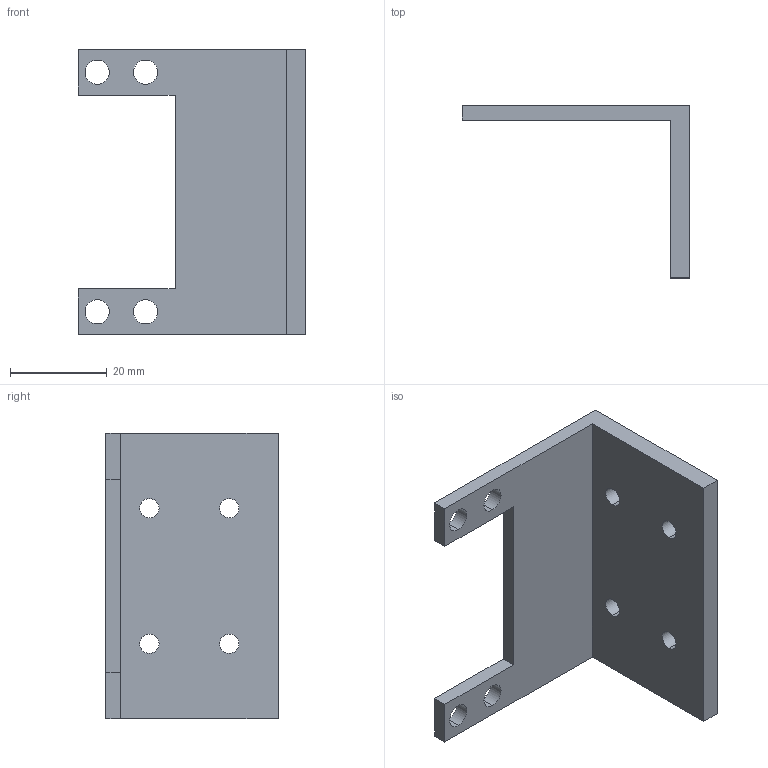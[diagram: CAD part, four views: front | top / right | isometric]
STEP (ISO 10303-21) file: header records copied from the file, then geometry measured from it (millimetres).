
FILE_DESCRIPTION (( 'STEP AP214' ), '1' );
FILE_NAME ('嗆儂盓殤.STEP', '2024-11-14T11:35:09', ( '' ), ( '' ), 'SwSTEP 2.0', 'SolidWorks 2021', '' );
FILE_SCHEMA (( 'AUTOMOTIVE_DESIGN' ));
Length unit declared in the file: millimetre
Products named in the file (1): 嗆儂盓殤
Bounding box: 47 x 35.6 x 59 mm (x, y, z)
Volume: 13175.9 mm3; surface area: 8941.5 mm2
Topology: 1 solids, 1 shells, 28 faces, 78 edges, 52 vertices
Faces by surface type: cylinder 16, plane 12
Entity records: 980 total; most frequent: DIRECTION 168, CARTESIAN_POINT 159, ORIENTED_EDGE 156, EDGE_CURVE 78, AXIS2_PLACEMENT_3D 61, VERTEX_POINT 52, VECTOR 46, LINE 46
